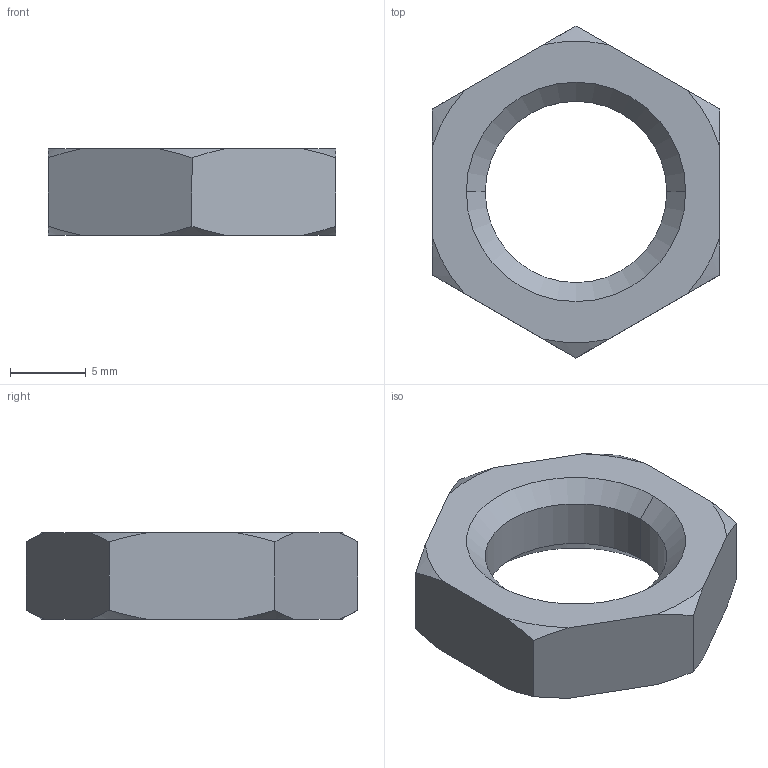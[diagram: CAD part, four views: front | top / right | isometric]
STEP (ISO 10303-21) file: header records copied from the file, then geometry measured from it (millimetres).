
FILE_DESCRIPTION (( 'STEP AP203' ), '1' );
FILE_NAME ('P0306.120-125-A2.step', '2018-12-15T14:53:42', ( '' ), ( '' ), 'SwSTEP 2.0', 'SolidWorks 2017', '' );
FILE_SCHEMA (( 'CONFIG_CONTROL_DESIGN' ));
Length unit declared in the file: millimetre
Products named in the file (1): P0306.120-125-A2
Bounding box: 19 x 21.94 x 5.7 mm (x, y, z)
Volume: 1070 mm3; surface area: 926 mm2
Topology: 1 solids, 1 shells, 26 faces, 68 edges, 44 vertices
Faces by surface type: cone 16, plane 8, cylinder 2
Entity records: 913 total; most frequent: CARTESIAN_POINT 219, ORIENTED_EDGE 136, DIRECTION 118, EDGE_CURVE 68, AXIS2_PLACEMENT_3D 47, VERTEX_POINT 44, EDGE_LOOP 28, ADVANCED_FACE 26
